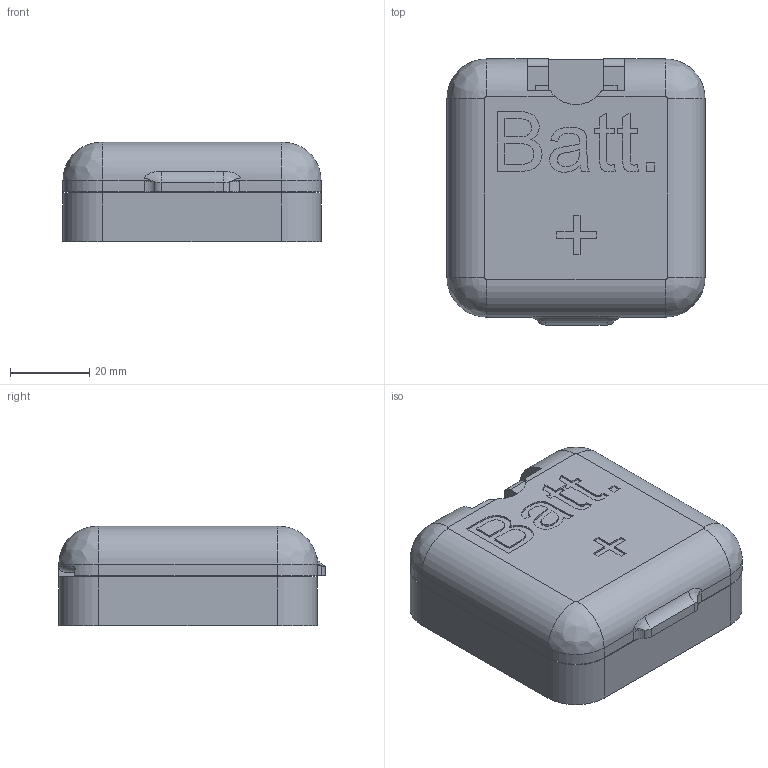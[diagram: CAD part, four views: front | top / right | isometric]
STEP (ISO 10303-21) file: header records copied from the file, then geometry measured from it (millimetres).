
FILE_DESCRIPTION(/* description */ (''),/* implementation_level */ '2;1');
FILE_NAME(/* name */ 'bmw e39 batt + v6.step',/* time_stamp */ '2024-05-21T21:39:04+05:00',/* author */ (''),/* organization */ (''),/* preprocessor_version */ 'ST-DEVELOPER v20',/* originating_system */ 'Autodesk Translation Framework v12.20.1.177',/* authorisation */ '');
FILE_SCHEMA (('AUTOMOTIVE_DESIGN { 1 0 10303 214 3 1 1 }'));
Length unit declared in the file: millimetre
Products named in the file (3): bmw e39 batt +; Component1; Component2
Assembly tree (2 placements, depth 2):
  bmw e39 batt +
    Component1
    Component2
Bounding box: 65 x 67.01 x 25 mm (x, y, z)
Volume: 43053.9 mm3; surface area: 27735.8 mm2
Topology: 2 solids, 2 shells, 396 faces, 1102 edges, 717 vertices
Faces by surface type: plane 208, bspline 94, cylinder 86, torus 8
Full cylindrical faces by diameter (mm): 3 x2, 6 x2, 12 x2, 20.7 x1
Entity records: 14324 total; most frequent: CARTESIAN_POINT 4610, ORIENTED_EDGE 2196, DIRECTION 1710, EDGE_CURVE 1098, VERTEX_POINT 717, LINE 710, VECTOR 710, AXIS2_PLACEMENT_3D 500
